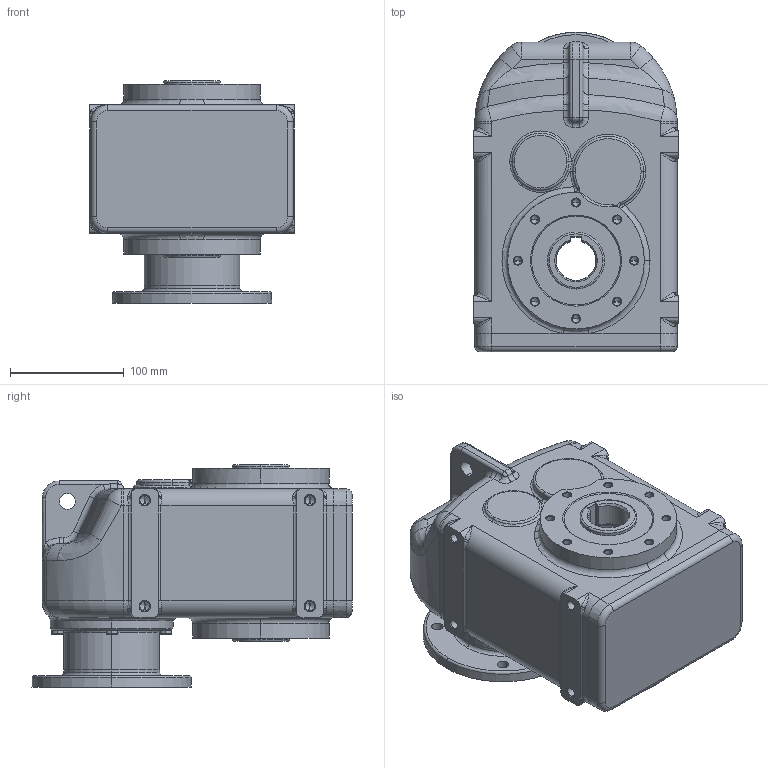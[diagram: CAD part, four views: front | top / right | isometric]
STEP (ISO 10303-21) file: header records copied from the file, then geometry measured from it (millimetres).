
FILE_DESCRIPTION (( 'STEP AP214' ), '1' );
FILE_NAME ('tnc23-f115-ap71.STEP', '2009-09-24T06:54:25', ( '' ), ( '' ), 'SwSTEP 2.0', 'SolidWorks 2003240', '' );
FILE_SCHEMA (( 'AUTOMOTIVE_DESIGN' ));
Length unit declared in the file: millimetre
Products named in the file (4): D6912_Šroub DIN 6912 - M6x20; tnc23-f115-ap71; Pøíruba MRT80 kulatá _95-115-140; Skøíò TNC2_Skøíò TNC23 AP71
Assembly tree (8 placements, depth 2):
  tnc23-f115-ap71
    D6912_Šroub DIN 6912 - M6x20  x6
    Pøíruba MRT80 kulatá _95-115-140
    Skøíò TNC2_Skøíò TNC23 AP71
Bounding box: 180 x 281 x 195 mm (x, y, z)
Volume: 5672603.5 mm3; surface area: 286759.3 mm2
Topology: 8 solids, 8 shells, 858 faces, 1910 edges, 1039 vertices
Faces by surface type: cylinder 246, cone 241, plane 175, torus 128, bspline 62, sphere 6
Entity records: 82583 total; most frequent: CARTESIAN_POINT 66645, DIRECTION 3449, ORIENTED_EDGE 2992, EDGE_CURVE 1496, AXIS2_PLACEMENT_3D 1451, VERTEX_POINT 884, CIRCLE 829, EDGE_LOOP 754
